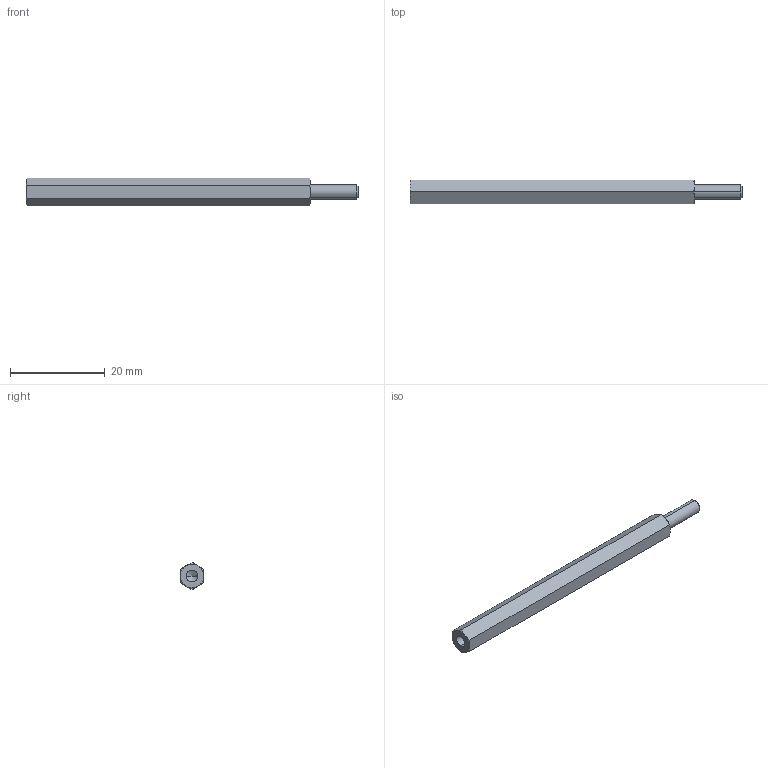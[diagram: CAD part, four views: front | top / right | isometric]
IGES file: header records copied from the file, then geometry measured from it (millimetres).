
Start section: SolidWorks IGES file using analytic representation for surfaces
Global section: file name: C:\Users\render1\Desktop\P0185_IGES\P0185.03-60.igs; native system: SolidWorks 2009; preprocessor: SolidWorks 2009; author: render1; date: 130627.111917; units: millimetre
Bounding box: 70 x 5 x 5.77 mm (x, y, z)
Surface area: 1252.6 mm2 (no closed solid volume)
Topology: 0 solids, 0 shells, 29 faces, 324 edges, 322 vertices
Faces by surface type: revolution 20, bspline 9
